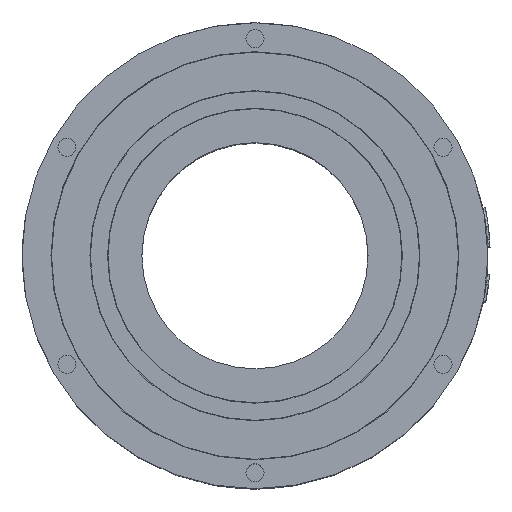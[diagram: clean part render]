
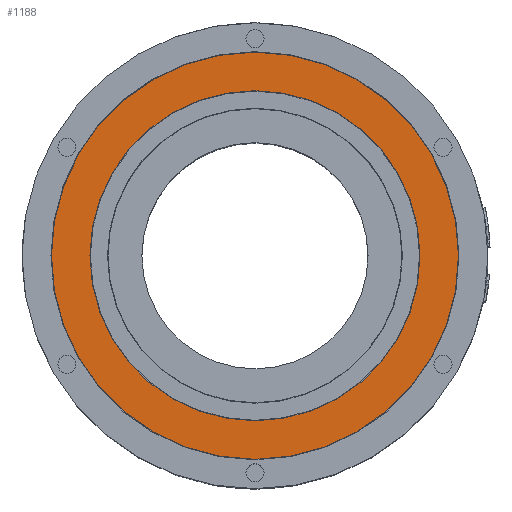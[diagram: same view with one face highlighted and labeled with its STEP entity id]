
A CAD part, top view. The second image highlights one B-rep face of the part: STEP entity #1188.
In plain terms, the highlighted planar face has unit normal (0, 0, 1).
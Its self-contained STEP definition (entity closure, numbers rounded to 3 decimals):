
#179=FACE_BOUND('',#2279,.T.);
#180=FACE_BOUND('',#2280,.T.);
#416=CIRCLE('',#7036,36.485);
#417=CIRCLE('',#7037,45.);
#752=PLANE('',#7038);
#1188=ADVANCED_FACE('',(#179,#180),#752,.F.);
#2279=EDGE_LOOP('',(#3809));
#2280=EDGE_LOOP('',(#3810));
#3809=ORIENTED_EDGE('',*,*,#5857,.F.);
#3810=ORIENTED_EDGE('',*,*,#5858,.F.);
#4948=VERTEX_POINT('',#30076);
#4949=VERTEX_POINT('',#30078);
#5857=EDGE_CURVE('',#4948,#4948,#416,.T.);
#5858=EDGE_CURVE('',#4949,#4949,#417,.T.);
#7036=AXIS2_PLACEMENT_3D('',#30075,#8030,#8031);
#7037=AXIS2_PLACEMENT_3D('',#30077,#8032,#8033);
#7038=AXIS2_PLACEMENT_3D('',#30079,#8034,#8035);
#8030=DIRECTION('',(0.,0.,1.));
#8031=DIRECTION('',(-1.,0.,0.));
#8032=DIRECTION('',(0.,0.,-1.));
#8033=DIRECTION('',(1.,0.,0.));
#8034=DIRECTION('',(0.,0.,-1.));
#8035=DIRECTION('',(-1.,0.,0.));
#30075=CARTESIAN_POINT('',(0.,0.,90.));
#30076=CARTESIAN_POINT('',(-36.485,0.,90.));
#30077=CARTESIAN_POINT('',(0.,0.,90.));
#30078=CARTESIAN_POINT('',(45.,0.,90.));
#30079=CARTESIAN_POINT('',(0.,0.,90.));
